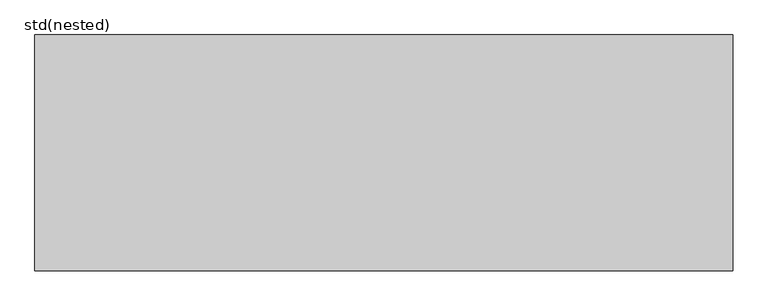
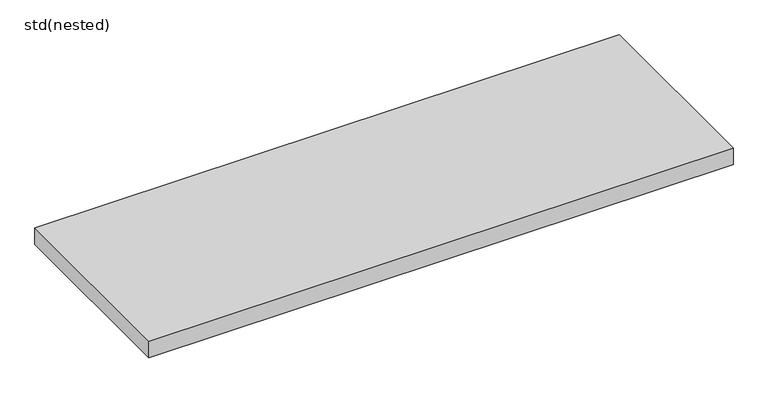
"""IFC4 building model written with IfcOpenShell, lengths in millimetres: sanitary terminal geometry, ZZZ_do not use_PF_ST_H300K_gratings_USA_ACO : std(nested)."""

from ifc_helpers import new_model, si_unit, frame, origin, place, context, project, spatial, polyline, outline, extrude, source, transform, mapped, element, save


def std_nested_a48f086b(model_context):
    return source(origin(), model_context, "Body", "SweptSolid", [
        extrude(outline(polyline([(500.0, 169.0), (500.0, -169.0), (-500.0, -169.0), (-500.0, 169.0), (500.0, 169.0)])), frame((0.0, 0.0, -30.0), z_axis=(0.0, 0.0, 1.0), x_axis=(1.0, 0.0, 0.0)), (0.0, 0.0, 1.0), 30.0),
    ])


if __name__ == "__main__":
    model = new_model("IFC4")
    model_context = context("Model", 3, world=origin())
    ifc_project = project(units=[si_unit("LENGTHUNIT", "METRE", prefix="MILLI")], contexts=[model_context])
    site = spatial("IfcSite", under=ifc_project)
    building = spatial("IfcBuilding", under=site)
    placement = place(None, origin())
    std_nested_shape = std_nested_a48f086b(model_context)
    element("IfcSanitaryTerminal", 1, ObjectType="ZZZ_do not use_PF_ST_H300K_gratings_USA_ACO : std(nested)", at=placement, inside=building, context=model_context, shape_type="MappedRepresentation", body=[
        mapped(std_nested_shape, transform((0.0, 0.0, 0.0), x_axis=(1.0, 0.0, 0.0), y_axis=(0.0, 1.0, 0.0), z_axis=(0.0, 0.0, 1.0))),
    ])
    save(model, "model.ifc")
